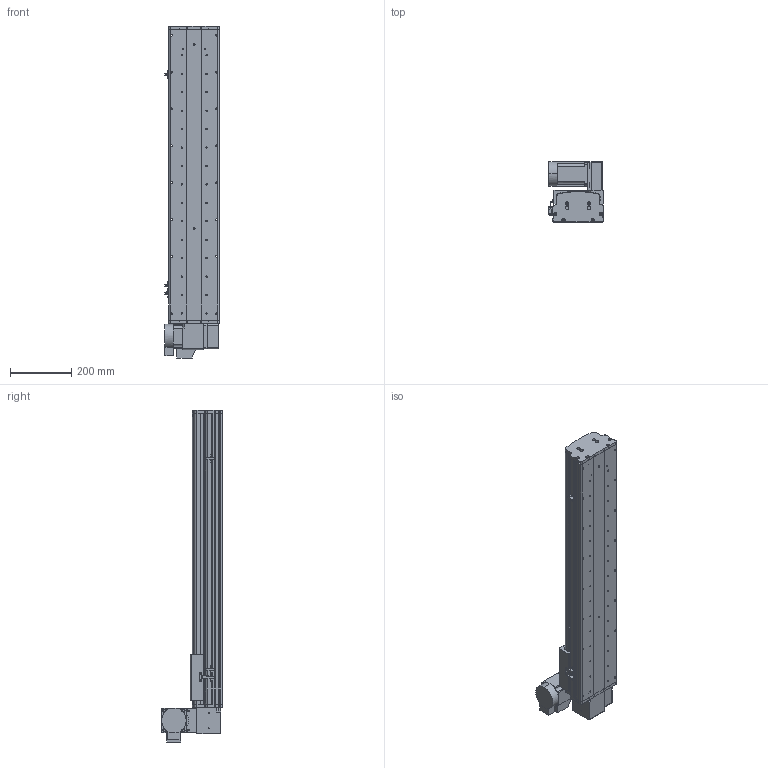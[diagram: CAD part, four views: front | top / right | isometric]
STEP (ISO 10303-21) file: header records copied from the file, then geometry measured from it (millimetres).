
FILE_DESCRIPTION (( 'STEP AP214' ), '1' );
FILE_NAME ('KSD165B-S700-MRU-CM.STEP', '2017-10-17T02:25:47', ( '微软用户' ), ( '微软中国' ), 'SwSTEP 2.0', 'SolidWorks 2014', '' );
FILE_SCHEMA (( 'AUTOMOTIVE_DESIGN' ));
Length unit declared in the file: millimetre
Products named in the file (17): HTPA26S5M250-A-H8 750W萇儂蚚; HTPA26S5M250-A-H8 400W萇儂蚚 ; KSD165模组-同步带防尘盖1-700行程-最新版; KSD165模组同步带底板-700行程-最新; 拸秶雄ん750W侜督萇儂; 165宽马达安装板同步带右; U倰嫖萇假蚾璃; U倰嫖萇EEㄜSX672; 覜茼え68遵圉猾敕; KSD165模组-同步带-防撞垫2; KSD165模组同步带-防撞垫1; KSD165耀郪-ヶ傷啣1-肮祭湍; KSD165模组-后端板1-同步带; KSD165模组-同步带滑动座-最新版; KSD165B-S700-MRU-CM; 130宽模组马达安装板连板上下折丝杆同步带; 130宽模组保护罩上下左右折-同步带
Assembly tree (20 placements, depth 2):
  KSD165B-S700-MRU-CM
    KSD165模组-同步带滑动座-最新版
    KSD165模组-后端板1-同步带
    KSD165耀郪-ヶ傷啣1-肮祭湍
    KSD165模组同步带-防撞垫1
    KSD165模组-同步带-防撞垫2
    覜茼え68遵圉猾敕
    U倰嫖萇EEㄜSX672  x3
    U倰嫖萇假蚾璃  x3
    165宽马达安装板同步带右
    拸秶雄ん750W侜督萇儂
    KSD165模组同步带底板-700行程-最新
    KSD165模组-同步带防尘盖1-700行程-最新版
    HTPA26S5M250-A-H8 400W萇儂蚚 
    HTPA26S5M250-A-H8 750W萇儂蚚
    130宽模组保护罩上下左右折-同步带
    130宽模组马达安装板连板上下折丝杆同步带
Bounding box: 178.7 x 198 x 1080.5 mm (x, y, z)
Volume: 6565414 mm3; surface area: 1520772.2 mm2
Topology: 21 solids, 21 shells, 1925 faces, 5430 edges, 3544 vertices
Faces by surface type: cylinder 1231, plane 582, cone 112
Entity records: 62204 total; most frequent: CARTESIAN_POINT 12736, DIRECTION 10250, ORIENTED_EDGE 9520, EDGE_CURVE 4760, AXIS2_PLACEMENT_3D 4016, VERTEX_POINT 3136, CIRCLE 2288, VECTOR 2218
